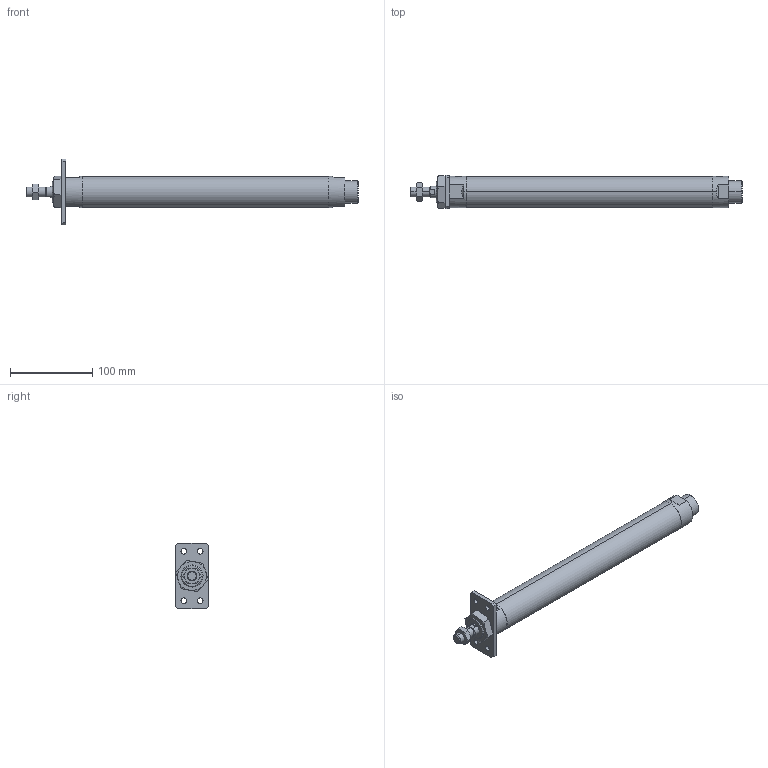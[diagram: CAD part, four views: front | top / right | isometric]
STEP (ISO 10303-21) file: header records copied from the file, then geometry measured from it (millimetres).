
FILE_DESCRIPTION (( 'STEP AP203' ), '1' );
FILE_NAME ('J#2-32-250-A.STEP', '2016-03-08T07:49:13', ( '' ), ( '' ), 'SwSTEP 2.0', 'SolidWorks 2014', '' );
FILE_SCHEMA (( 'CONFIG_CONTROL_DESIGN' ));
Length unit declared in the file: millimetre
Products named in the file (5): J#2-32-A; J#2-32-250; J#2-32-250-A
Assembly tree (4 placements, depth 2):
  J#2-32-250-A
    J#2-32-250
    (unnamed)
    (unnamed)
    J#2-32-A
Bounding box: 403 x 40 x 80 mm (x, y, z)
Volume: 413605.5 mm3; surface area: 58312.4 mm2
Topology: 4 solids, 4 shells, 114 faces, 264 edges, 161 vertices
Faces by surface type: plane 43, cylinder 32, torus 24, cone 15
Entity records: 4214 total; most frequent: CARTESIAN_POINT 1149, DIRECTION 537, ORIENTED_EDGE 520, EDGE_CURVE 260, AXIS2_PLACEMENT_3D 219, VERTEX_POINT 161, EDGE_LOOP 135, ADVANCED_FACE 114
